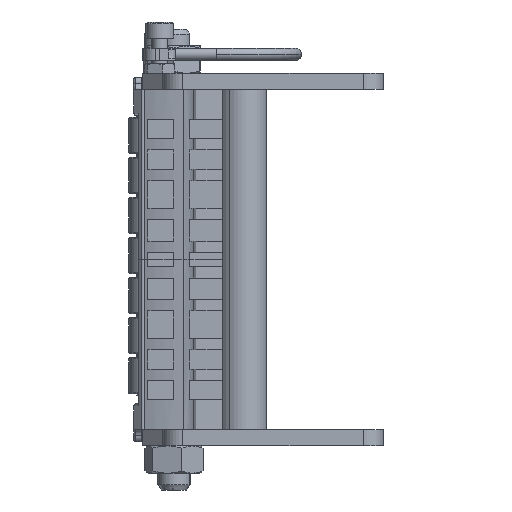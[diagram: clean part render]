
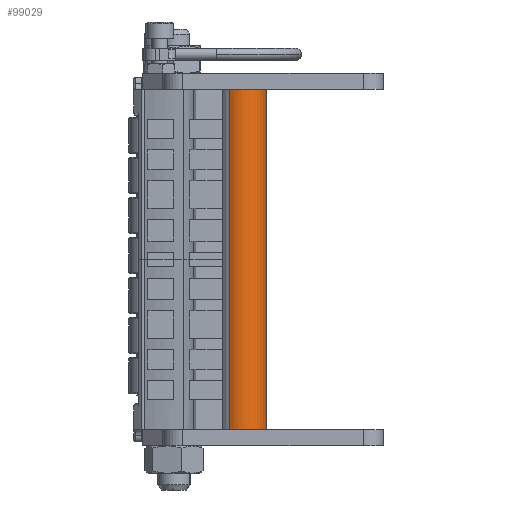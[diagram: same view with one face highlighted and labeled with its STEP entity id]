
A CAD part, left-side view. The second image highlights one B-rep face of the part: STEP entity #99029.
In plain terms, the highlighted cylindrical face has radius 6 mm (diameter 12 mm), a partial arc.
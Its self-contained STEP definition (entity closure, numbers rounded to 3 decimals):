
#1232 = VECTOR ( 'NONE', #48023, 1000. ) ;
#1333 = EDGE_CURVE ( 'NONE', #51033, #94920, #68210, .T. ) ;
#2699 = CYLINDRICAL_SURFACE ( 'NONE', #91439, 6. ) ;
#6298 = DIRECTION ( 'NONE',  ( 0.859, -0.511, 0. ) ) ;
#10631 = CARTESIAN_POINT ( 'NONE',  ( 225.644, -16.732, -4. ) ) ;
#13141 = ORIENTED_EDGE ( 'NONE', *, *, #22672, .T. ) ;
#14542 = DIRECTION ( 'NONE',  ( 0., 0., 1. ) ) ;
#15868 = VERTEX_POINT ( 'NONE', #39288 ) ;
#16846 = CIRCLE ( 'NONE', #41019, 6. ) ;
#22417 = DIRECTION ( 'NONE',  ( 0.859, -0.511, 0. ) ) ;
#22672 = EDGE_CURVE ( 'NONE', #51033, #73895, #16846, .T. ) ;
#24259 = CARTESIAN_POINT ( 'NONE',  ( 225.644, -16.732, -89. ) ) ;
#30261 = CARTESIAN_POINT ( 'NONE',  ( 235.956, -22.868, -89. ) ) ;
#32862 = VECTOR ( 'NONE', #57180, 1000. ) ;
#34034 = LINE ( 'NONE', #57513, #32862 ) ;
#39288 = CARTESIAN_POINT ( 'NONE',  ( 235.956, -22.868, -4. ) ) ;
#41019 = AXIS2_PLACEMENT_3D ( 'NONE', #91983, #100142, #6298 ) ;
#43940 = FACE_OUTER_BOUND ( 'NONE', #51979, .T. ) ;
#48023 = DIRECTION ( 'NONE',  ( 0., 0., 1. ) ) ;
#48231 = CARTESIAN_POINT ( 'NONE',  ( 230.8, -19.8, -4. ) ) ;
#51033 = VERTEX_POINT ( 'NONE', #62479 ) ;
#51979 = EDGE_LOOP ( 'NONE', ( #81021, #13141, #72655, #92526 ) ) ;
#54924 = CIRCLE ( 'NONE', #57192, 6. ) ;
#57180 = DIRECTION ( 'NONE',  ( 0., 0., 1. ) ) ;
#57192 = AXIS2_PLACEMENT_3D ( 'NONE', #48231, #79555, #82225 ) ;
#57513 = CARTESIAN_POINT ( 'NONE',  ( 235.956, -22.868, -89. ) ) ;
#61841 = CARTESIAN_POINT ( 'NONE',  ( 230.8, -19.8, -89. ) ) ;
#62479 = CARTESIAN_POINT ( 'NONE',  ( 225.644, -16.732, -89. ) ) ;
#67209 = EDGE_CURVE ( 'NONE', #15868, #94920, #54924, .T. ) ;
#68210 = LINE ( 'NONE', #24259, #1232 ) ;
#72655 = ORIENTED_EDGE ( 'NONE', *, *, #99761, .T. ) ;
#73895 = VERTEX_POINT ( 'NONE', #30261 ) ;
#79555 = DIRECTION ( 'NONE',  ( 0., 0., -1. ) ) ;
#81021 = ORIENTED_EDGE ( 'NONE', *, *, #1333, .F. ) ;
#82225 = DIRECTION ( 'NONE',  ( 0.859, -0.511, 0. ) ) ;
#91439 = AXIS2_PLACEMENT_3D ( 'NONE', #61841, #14542, #22417 ) ;
#91983 = CARTESIAN_POINT ( 'NONE',  ( 230.8, -19.8, -89. ) ) ;
#92526 = ORIENTED_EDGE ( 'NONE', *, *, #67209, .T. ) ;
#94920 = VERTEX_POINT ( 'NONE', #10631 ) ;
#99029 = ADVANCED_FACE ( 'NONE', ( #43940 ), #2699, .T. ) ;
#99761 = EDGE_CURVE ( 'NONE', #73895, #15868, #34034, .T. ) ;
#100142 = DIRECTION ( 'NONE',  ( 0., 0., 1. ) ) ;
